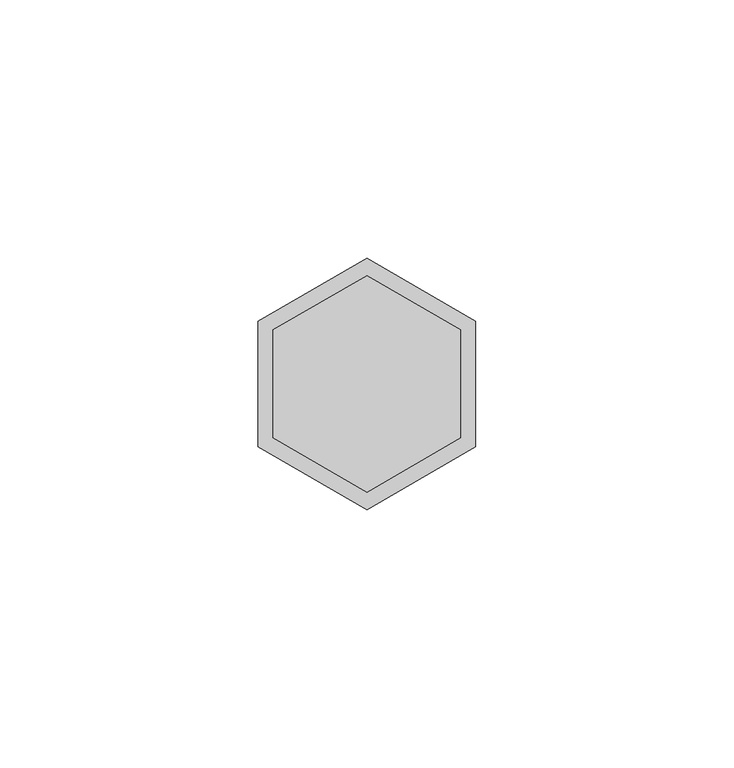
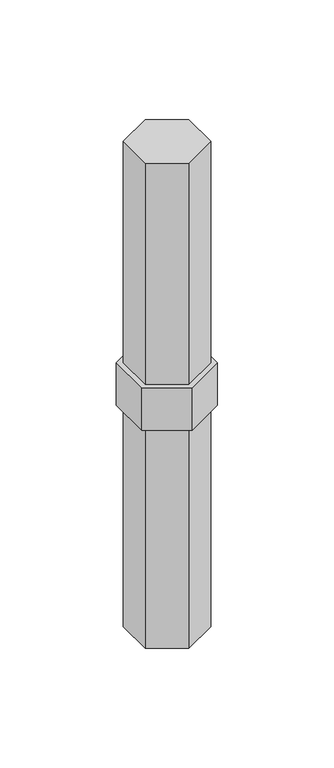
"""IFC4 building model written with IfcOpenShell, lengths in millimetres: proxy geometry, AK_アルバトロスＡＫ連結ピン_軽 : AK_アルバトロスＡＫ連結ピン."""

from ifc_helpers import new_model, si_unit, frame, origin, origin_with_axes, place, context, project, spatial, polyline, outline, extrude, source, transform, mapped, element, save


def generic_models_1e0378dc(model_context):
    return source(origin(), model_context, "Body", "SweptSolid", [
        extrude(outline(polyline([(18.1432322, 10.475), (18.1432322, -10.475), (0.0, -20.95), (-18.1432322, -10.475), (-18.1432322, 10.475), (0.0, 20.95), (18.1432322, 10.475)])), frame((0.0, 0.0, 25.0), z_axis=(0.0, 0.0, 1.0), x_axis=(1.0, 0.0, 0.0)), (0.0, 0.0, 1.0), 130.0),
        extrude(outline(polyline([(18.1432322, 10.475), (18.1432322, -10.475), (0.0, -20.95), (-18.1432322, -10.475), (-18.1432322, 10.475), (0.0, 20.95), (18.1432322, 10.475)])), frame((0.0, 0.0, -130.0), z_axis=(0.0, 0.0, 1.0), x_axis=(1.0, 0.0, 0.0)), (0.0, 0.0, 1.0), 130.0),
        extrude(outline(polyline([(21.0444173, 12.15), (21.0444173, -12.15), (0.0, -24.3), (-21.0444173, -12.15), (-21.0444173, 12.15), (0.0, 24.3), (21.0444173, 12.15)])), origin_with_axes(), (0.0, 0.0, 1.0), 25.0),
    ])


if __name__ == "__main__":
    model = new_model("IFC4")
    model_context = context("Model", 3, world=origin())
    ifc_project = project(units=[si_unit("LENGTHUNIT", "METRE", prefix="MILLI")], contexts=[model_context])
    site = spatial("IfcSite", under=ifc_project)
    building = spatial("IfcBuilding", under=site)
    placement = place(None, origin())
    generic_models_shape = generic_models_1e0378dc(model_context)
    element("IfcBuildingElementProxy", 1, Name="AK_アルバトロスＡＫ連結ピン_軽 : AK_アルバトロスＡＫ連結ピン", ObjectType="AK_アルバトロスＡＫ連結ピン_軽 : AK_アルバトロスＡＫ連結ピン", at=placement, inside=building, context=model_context, shape_type="MappedRepresentation", body=[
        mapped(generic_models_shape, transform((0.0, 0.0, 0.0), x_axis=(1.0, 0.0, 0.0), y_axis=(0.0, 1.0, 0.0), z_axis=(0.0, 0.0, 1.0))),
    ])
    save(model, "model.ifc")
